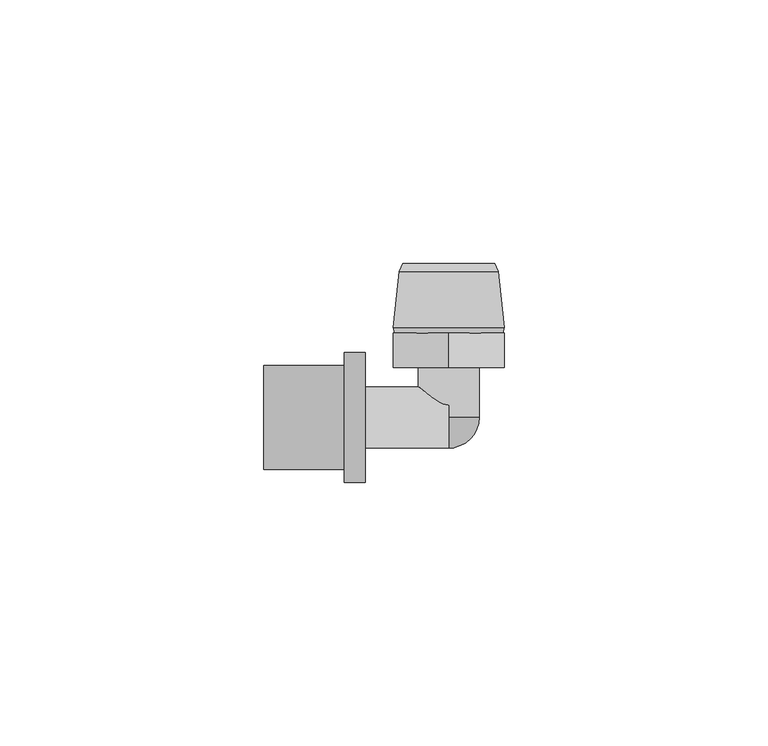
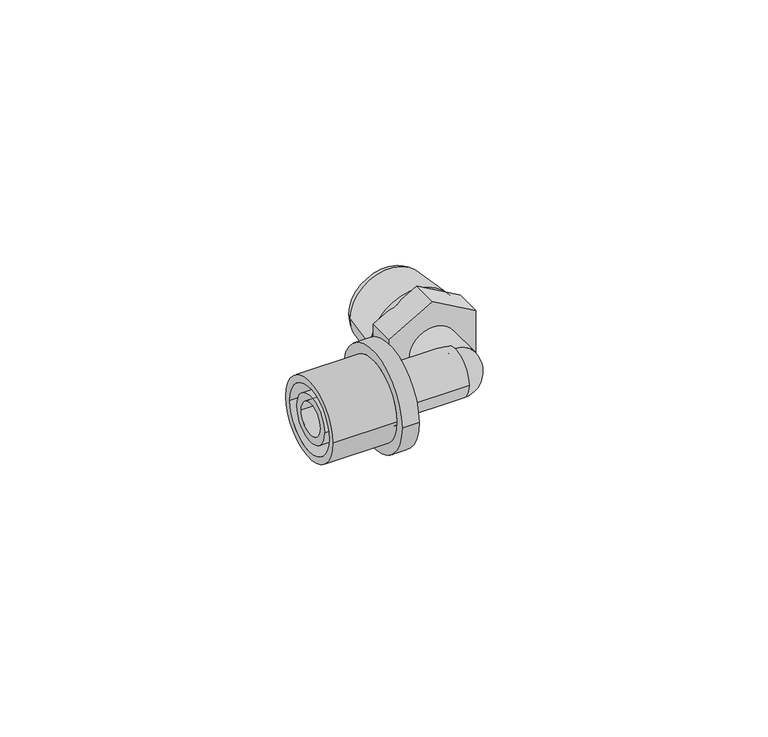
"""IFC4 building model written with IfcOpenShell, lengths in millimetres: pipe fitting geometry, FASTLOC_Elbow with male thread EX+ : FSL A internal AT."""

from ifc_helpers import new_model, si_unit, point, frame, origin, origin_2d, place, context, project, spatial, polyline, circle_curve, ellipse_curve, trimmed, segment, composite_curve, outline, extrude, source, transform, mapped, element, save
from ifc_brep_helpers import plane_surface, cylinder_surface, revolved_surface, advanced_brep


def pipe_fitting_1a29b1f6(model_context):
    return source(origin(), model_context, "Body", "SolidModel", [
        advanced_brep(
        [(-19.8, -12.35, 0.0), (-19.8, 12.35, 0.0), (-15.8, 12.35, 0.0), (-15.8, -12.35, 0.0), (-35.1, -9.85, 0.0), (-35.1, 9.85, 0.0), (-19.8, 9.85, 0.0), (-19.8, -9.85, 0.0), (-15.8, -8.15, 0.0), (-15.8, 8.15, 0.0), (-35.1, 8.15, 0.0), (-35.1, -8.15, 0.0)],
        [
            (0, 1, circle_curve(frame((-19.8, 0.0, 0.0), z_axis=(1.0, 0.0, 0.0), x_axis=(0.0, 1.0, 0.0)), 12.35)),
            (1, 2),
            (2, 3, circle_curve(frame((-15.8, 0.0, 0.0), z_axis=(-1.0, 0.0, 0.0), x_axis=(0.0, 1.0, 0.0)), 12.35)),
            (3, 0),
            (4, 5, circle_curve(frame((-35.1, 0.0, 0.0), z_axis=(1.0, 0.0, 0.0), x_axis=(0.0, 1.0, 0.0)), 9.85)),
            (5, 6),
            (6, 7, circle_curve(frame((-19.8, 0.0, 0.0), z_axis=(-1.0, 0.0, 0.0), x_axis=(0.0, 1.0, 0.0)), 9.85)),
            (7, 4),
            (8, 9, circle_curve(frame((-15.8, 0.0, 0.0), z_axis=(1.0, 0.0, 0.0), x_axis=(0.0, 1.0, 0.0)), 8.15)),
            (9, 10),
            (10, 11, circle_curve(frame((-35.1, 0.0, 0.0), z_axis=(-1.0, 0.0, 0.0), x_axis=(0.0, 1.0, 0.0)), 8.15)),
            (11, 8),
            (1, 0, circle_curve(frame((-19.8, 0.0, 0.0), z_axis=(1.0, 0.0, 0.0), x_axis=(0.0, -1.0, 0.0)), 12.35)),
            (3, 2, circle_curve(frame((-15.8, 0.0, 0.0), z_axis=(-1.0, 0.0, 0.0), x_axis=(0.0, -1.0, 0.0)), 12.35)),
            (6, 7, circle_curve(frame((-19.8, 0.0, 0.0), z_axis=(1.0, 0.0, 0.0), x_axis=(0.0, -1.0, 0.0)), 9.85)),
            (5, 4, circle_curve(frame((-35.1, 0.0, 0.0), z_axis=(1.0, 0.0, 0.0), x_axis=(0.0, -1.0, 0.0)), 9.85)),
            (10, 11, circle_curve(frame((-35.1, 0.0, 0.0), z_axis=(1.0, 0.0, 0.0), x_axis=(0.0, -1.0, 0.0)), 8.15)),
            (9, 8, circle_curve(frame((-15.8, 0.0, 0.0), z_axis=(1.0, 0.0, 0.0), x_axis=(0.0, -1.0, 0.0)), 8.15)),
        ],
        [
            cylinder_surface(frame((-15.8, 0.0, 0.0), z_axis=(-1.0, 0.0, 0.0), x_axis=(0.0, 1.0, 0.0)), 12.35),
            cylinder_surface(frame((-15.8, 0.0, 0.0), z_axis=(-1.0, 0.0, 0.0), x_axis=(0.0, 1.0, 0.0)), 9.85),
            revolved_surface(polyline([(-35.1, 8.15, 0.0), (-15.8, 8.15, 0.0)]), (-15.8, 0.0, 0.0), (-1.0, 0.0, 0.0)),
            cylinder_surface(frame((-15.8, 0.0, 0.0), z_axis=(-1.0, 0.0, 0.0), x_axis=(0.0, -1.0, 0.0)), 12.35),
            plane_surface(frame((-19.8, 0.0, 0.0), z_axis=(-1.0, 0.0, 0.0), x_axis=(0.0, -1.0, 0.0))),
            cylinder_surface(frame((-15.8, 0.0, 0.0), z_axis=(-1.0, 0.0, 0.0), x_axis=(0.0, -1.0, 0.0)), 9.85),
            plane_surface(frame((-35.1, 0.0, 0.0), z_axis=(-1.0, 0.0, 0.0), x_axis=(0.0, -1.0, 0.0))),
            revolved_surface(polyline([(-35.1, -8.15, 0.0), (-15.8, -8.15, 0.0)]), (-15.8, 0.0, 0.0), (-1.0, 0.0, 0.0)),
            plane_surface(frame((-15.8, 0.0, 0.0), z_axis=(1.0, 0.0, 0.0), x_axis=(0.0, -1.0, 0.0))),
        ],
        [
            (0, [[1, 2, 3, 4]]),
            (1, [[5, 6, 7, 8]]),
            (2, [[9, 10, 11, 12]]),
            (3, [[13, -4, 14, -2]]),
            (4, [[-13, -1], [15, -7]]),
            (5, [[16, -8, -15, -6]]),
            (6, [[-16, -5], [17, -11]]),
            (7, [[18, -12, -17, -10]]),
            (8, [[-14, -3], [-18, -9]]),
        ],
    ),
        advanced_brep(
        [(9.4, 27.7000007, 0.0), (-9.4, 27.7000007, 0.0), (-8.75, 29.2, 0.0), (8.75, 29.2, 0.0), (10.55, 17.0531902, 0.0), (-10.55, 17.0531902, 0.0), (10.2, 16.0, 0.0), (-10.2, 16.0, 0.0), (7.0, 17.4157803, 0.0), (-7.0, 17.4157803, 0.0), (-5.8967197, 16.0, 0.0), (5.8967197, 16.0, 0.0), (7.0, 29.2, 0.0), (-7.0, 29.2, 0.0)],
        [
            (0, 1, circle_curve(frame((0.0, 27.7000007, 0.0), z_axis=(0.0, 1.0, 0.0), x_axis=(-1.0, 0.0, 0.0)), 9.4)),
            (1, 2),
            (2, 3, circle_curve(frame((0.0, 29.2, 0.0), z_axis=(0.0, -1.0, 0.0), x_axis=(-1.0, 0.0, 0.0)), 8.75)),
            (3, 0),
            (4, 5, circle_curve(frame((0.0, 17.0531902, 0.0), z_axis=(0.0, 1.0, 0.0), x_axis=(-1.0, 0.0, 0.0)), 10.55)),
            (5, 1),
            (0, 4),
            (6, 7, circle_curve(frame((0.0, 16.0, 0.0), z_axis=(0.0, 1.0, 0.0), x_axis=(-1.0, 0.0, 0.0)), 10.2)),
            (7, 5),
            (4, 6),
            (8, 9, circle_curve(frame((0.0, 17.4157803, 0.0), z_axis=(0.0, 1.0, 0.0), x_axis=(-1.0, 0.0, 0.0)), 7.0)),
            (9, 10),
            (10, 11, circle_curve(frame((0.0, 16.0, 0.0), z_axis=(0.0, -1.0, 0.0), x_axis=(-1.0, 0.0, 0.0)), 5.8967197)),
            (11, 8),
            (12, 13, circle_curve(frame((0.0, 29.2, 0.0), z_axis=(0.0, 1.0, 0.0), x_axis=(-1.0, 0.0, 0.0)), 7.0)),
            (13, 9),
            (8, 12),
            (2, 3, circle_curve(frame((0.0, 29.2, 0.0), z_axis=(0.0, 1.0, 0.0), x_axis=(1.0, 0.0, 0.0)), 8.75)),
            (12, 13, circle_curve(frame((0.0, 29.2, 0.0), z_axis=(0.0, -1.0, 0.0), x_axis=(1.0, 0.0, 0.0)), 7.0)),
            (1, 0, circle_curve(frame((0.0, 27.7000007, 0.0), z_axis=(0.0, 1.0, 0.0), x_axis=(1.0, 0.0, 0.0)), 9.4)),
            (5, 4, circle_curve(frame((0.0, 17.0531902, 0.0), z_axis=(0.0, 1.0, 0.0), x_axis=(1.0, 0.0, 0.0)), 10.55)),
            (7, 6, circle_curve(frame((0.0, 16.0, 0.0), z_axis=(0.0, 1.0, 0.0), x_axis=(1.0, 0.0, 0.0)), 10.2)),
            (10, 11, circle_curve(frame((0.0, 16.0, 0.0), z_axis=(0.0, 1.0, 0.0), x_axis=(1.0, 0.0, 0.0)), 5.8967197)),
            (9, 8, circle_curve(frame((0.0, 17.4157803, 0.0), z_axis=(0.0, 1.0, 0.0), x_axis=(1.0, 0.0, 0.0)), 7.0)),
        ],
        [
            revolved_surface(polyline([(-8.75, 29.2, 0.0), (-9.4, 27.7000007, 0.0)]), (0.0, 9.5, 0.0), (0.0, -1.0, 0.0)),
            revolved_surface(polyline([(-9.4, 27.7000007, 0.0), (-10.55, 17.0531902, 0.0)]), (0.0, 9.5, 0.0), (0.0, -1.0, 0.0)),
            revolved_surface(polyline([(-10.55, 17.0531902, 0.0), (-10.2, 16.0, 0.0)]), (0.0, 9.5, 0.0), (0.0, -1.0, 0.0)),
            revolved_surface(polyline([(-5.8967197, 16.0, 0.0), (-7.0, 17.4157803, 0.0)]), (0.0, 9.5, 0.0), (0.0, -1.0, 0.0)),
            revolved_surface(polyline([(-7.0, 17.4157803, 0.0), (-7.0, 29.2, 0.0)]), (0.0, 9.5, 0.0), (0.0, -1.0, 0.0)),
            plane_surface(frame((0.0, 29.2, 0.0), z_axis=(0.0, 1.0, 0.0), x_axis=(1.0, 0.0, 0.0))),
            revolved_surface(polyline([(8.75, 29.2, 0.0), (9.4, 27.7000007, 0.0)]), (0.0, 9.5, 0.0), (0.0, -1.0, 0.0)),
            revolved_surface(polyline([(9.4, 27.7000007, 0.0), (10.55, 17.0531902, 0.0)]), (0.0, 9.5, 0.0), (0.0, -1.0, 0.0)),
            revolved_surface(polyline([(10.55, 17.0531902, 0.0), (10.2, 16.0, 0.0)]), (0.0, 9.5, 0.0), (0.0, -1.0, 0.0)),
            plane_surface(frame((0.0, 16.0, 0.0), z_axis=(0.0, -1.0, 0.0), x_axis=(1.0, 0.0, 0.0))),
            revolved_surface(polyline([(5.8967197, 16.0, 0.0), (7.0, 17.4157803, 0.0)]), (0.0, 9.5, 0.0), (0.0, -1.0, 0.0)),
            revolved_surface(polyline([(7.0, 17.4157803, 0.0), (7.0, 29.2, 0.0)]), (0.0, 9.5, 0.0), (0.0, -1.0, 0.0)),
        ],
        [
            (0, [[1, 2, 3, 4]]),
            (1, [[5, 6, -1, 7]]),
            (2, [[8, 9, -5, 10]]),
            (3, [[11, 12, 13, 14]]),
            (4, [[15, 16, -11, 17]]),
            (5, [[18, -3], [19, -15]]),
            (6, [[20, -4, -18, -2]]),
            (7, [[21, -7, -20, -6]]),
            (8, [[22, -10, -21, -9]]),
            (9, [[-22, -8], [23, -13]]),
            (10, [[24, -14, -23, -12]]),
            (11, [[-19, -17, -24, -16]]),
        ],
    ),
        advanced_brep(
        [(-19.8, 5.8, 0.0), (-19.8, -5.8, 0.0), (-34.8, -5.8, 0.0), (-34.8, 5.8, 0.0), (-17.1, 6.9, 0.0), (-17.1, -6.9, 0.0), (-19.8, -6.9, 0.0), (-19.8, 6.9, 0.0), (0.0, 5.8, 0.0), (0.0, -5.8, 0.0), (-17.1, -5.8, 0.0), (-17.1, 5.8, 0.0), (-34.8, 3.95, 0.0), (-34.8, -3.95, 0.0), (0.0, -3.95, 0.0), (0.0, 3.95, 0.0)],
        [
            (0, 1, circle_curve(frame((-19.8, 0.0, 0.0), z_axis=(-1.0, 0.0, 0.0), x_axis=(0.0, -1.0, 0.0)), 5.8)),
            (1, 2),
            (2, 3, circle_curve(frame((-34.8, 0.0, 0.0), z_axis=(1.0, 0.0, 0.0), x_axis=(0.0, -1.0, 0.0)), 5.8)),
            (3, 0),
            (4, 5, circle_curve(frame((-17.1, 0.0, 0.0), z_axis=(-1.0, 0.0, 0.0), x_axis=(0.0, -1.0, 0.0)), 6.9)),
            (5, 6),
            (6, 7, circle_curve(frame((-19.8, 0.0, 0.0), z_axis=(1.0, 0.0, 0.0), x_axis=(0.0, -1.0, 0.0)), 6.9)),
            (7, 4),
            (8, 9, circle_curve(frame((0.0, 0.0, 0.0), z_axis=(-1.0, 0.0, 0.0), x_axis=(0.0, -1.0, 0.0)), 5.8)),
            (9, 10),
            (10, 11, circle_curve(frame((-17.1, 0.0, 0.0), z_axis=(1.0, 0.0, 0.0), x_axis=(0.0, -1.0, 0.0)), 5.8)),
            (11, 8),
            (12, 13, circle_curve(frame((-34.8, 0.0, 0.0), z_axis=(-1.0, 0.0, 0.0), x_axis=(0.0, -1.0, 0.0)), 3.95)),
            (13, 14),
            (14, 15, circle_curve(frame((0.0, 0.0, 0.0), z_axis=(1.0, 0.0, 0.0), x_axis=(0.0, -1.0, 0.0)), 3.95)),
            (15, 12),
            (2, 3, circle_curve(frame((-34.8, 0.0, 0.0), z_axis=(-1.0, 0.0, 0.0), x_axis=(0.0, 1.0, 0.0)), 5.8)),
            (12, 13, circle_curve(frame((-34.8, 0.0, 0.0), z_axis=(1.0, 0.0, 0.0), x_axis=(0.0, 1.0, 0.0)), 3.95)),
            (1, 0, circle_curve(frame((-19.8, 0.0, 0.0), z_axis=(-1.0, 0.0, 0.0), x_axis=(0.0, 1.0, 0.0)), 5.8)),
            (6, 7, circle_curve(frame((-19.8, 0.0, 0.0), z_axis=(-1.0, 0.0, 0.0), x_axis=(0.0, 1.0, 0.0)), 6.9)),
            (5, 4, circle_curve(frame((-17.1, 0.0, 0.0), z_axis=(-1.0, 0.0, 0.0), x_axis=(0.0, 1.0, 0.0)), 6.9)),
            (10, 11, circle_curve(frame((-17.1, 0.0, 0.0), z_axis=(-1.0, 0.0, 0.0), x_axis=(0.0, 1.0, 0.0)), 5.8)),
            (9, 8, circle_curve(frame((0.0, 0.0, 0.0), z_axis=(-1.0, 0.0, 0.0), x_axis=(0.0, 1.0, 0.0)), 5.8)),
            (14, 15, circle_curve(frame((0.0, 0.0, 0.0), z_axis=(-1.0, 0.0, 0.0), x_axis=(0.0, 1.0, 0.0)), 3.95)),
        ],
        [
            cylinder_surface(frame((0.0, 0.0, 0.0), z_axis=(1.0, 0.0, 0.0), x_axis=(0.0, -1.0, 0.0)), 5.8),
            cylinder_surface(frame((0.0, 0.0, 0.0), z_axis=(1.0, 0.0, 0.0), x_axis=(0.0, -1.0, 0.0)), 6.9),
            revolved_surface(polyline([(0.0, -3.95, 0.0), (-34.8, -3.95, 0.0)]), (0.0, 0.0, 0.0), (1.0, 0.0, 0.0)),
            plane_surface(frame((-34.8, 0.0, 0.0), z_axis=(-1.0, 0.0, 0.0), x_axis=(0.0, 1.0, 0.0))),
            cylinder_surface(frame((0.0, 0.0, 0.0), z_axis=(1.0, 0.0, 0.0), x_axis=(0.0, 1.0, 0.0)), 5.8),
            plane_surface(frame((-19.8, 0.0, 0.0), z_axis=(-1.0, 0.0, 0.0), x_axis=(0.0, 1.0, 0.0))),
            cylinder_surface(frame((0.0, 0.0, 0.0), z_axis=(1.0, 0.0, 0.0), x_axis=(0.0, 1.0, 0.0)), 6.9),
            plane_surface(frame((-17.1, 0.0, 0.0), z_axis=(1.0, 0.0, 0.0), x_axis=(0.0, 1.0, 0.0))),
            plane_surface(frame((0.0, 0.0, 0.0), z_axis=(1.0, 0.0, 0.0), x_axis=(0.0, 1.0, 0.0))),
            revolved_surface(polyline([(0.0, 3.95, 0.0), (-34.8, 3.95, 0.0)]), (0.0, 0.0, 0.0), (1.0, 0.0, 0.0)),
        ],
        [
            (0, [[1, 2, 3, 4]]),
            (1, [[5, 6, 7, 8]]),
            (0, [[9, 10, 11, 12]]),
            (2, [[13, 14, 15, 16]]),
            (3, [[17, -3], [18, -13]]),
            (4, [[19, -4, -17, -2]]),
            (5, [[20, -7], [-19, -1]]),
            (6, [[21, -8, -20, -6]]),
            (7, [[-21, -5], [22, -11]]),
            (4, [[23, -12, -22, -10]]),
            (8, [[-23, -9], [24, -15]]),
            (9, [[-18, -16, -24, -14]]),
        ],
    ),
        advanced_brep(
        [(0.0, -5.8, 0.0), (0.0, 0.0, 5.8), (0.0, 0.0, 3.95), (0.0, -3.95, 0.0), (0.0, 0.0, -3.95), (0.0, 0.0, -5.8)],
        [
            (0, 1, circle_curve(frame((0.0, 0.0, 0.0), z_axis=(-1.0, 0.0, 0.0), x_axis=(0.0, 0.0, 1.0)), 5.8)),
            (1, 2),
            (2, 3, circle_curve(frame((0.0, 0.0, 0.0), z_axis=(1.0, 0.0, 0.0), x_axis=(0.0, 0.0, 1.0)), 3.95)),
            (3, 0),
            (3, 4, circle_curve(frame((0.0, 0.0, 0.0), z_axis=(1.0, 0.0, 0.0), x_axis=(0.0, 0.0, -1.0)), 3.95)),
            (4, 5),
            (5, 0, circle_curve(frame((0.0, 0.0, 0.0), z_axis=(-1.0, 0.0, 0.0), x_axis=(0.0, 0.0, -1.0)), 5.8)),
            (5, 1, circle_curve(frame((0.0, 0.0, 0.0), z_axis=(0.0, -1.0, 0.0), x_axis=(0.0, 0.0, 1.0)), 5.8)),
            (4, 2, circle_curve(frame((0.0, 0.0, 0.0), z_axis=(0.0, -1.0, 0.0), x_axis=(0.0, 0.0, 1.0)), 3.95)),
        ],
        [
            plane_surface(frame((0.0, 0.0, 0.0), z_axis=(-1.0, 0.0, 0.0), x_axis=(0.0, 0.0, 1.0))),
            plane_surface(frame((0.0, 0.0, 0.0), z_axis=(-1.0, 0.0, 0.0), x_axis=(0.0, 0.0, -1.0))),
            revolved_surface(trimmed(ellipse_curve(frame((0.0, 0.0, 0.0), z_axis=(-1.0, 0.0, 0.0), x_axis=(0.0, 0.0, 1.0)), 5.8, 5.8), [point((0.0, -5.8, 0.0))], [point((0.0, 0.0, 5.8))], True, "CARTESIAN"), (0.0, 0.0, 0.0), (0.0, 1.0, 0.0)),
            plane_surface(frame((0.0, 0.0, 0.0), z_axis=(0.0, 1.0, 0.0), x_axis=(0.0, 0.0, 1.0))),
            revolved_surface(trimmed(ellipse_curve(frame((0.0, 0.0, 0.0), z_axis=(1.0, 0.0, 0.0), x_axis=(0.0, 0.0, 1.0)), 3.95, 3.95), [point((0.0, 0.0, 3.95))], [point((0.0, -3.95, 0.0))], True, "CARTESIAN"), (0.0, 0.0, 0.0), (0.0, 1.0, 0.0)),
        ],
        [
            (0, [[1, 2, 3, 4]]),
            (1, [[5, 6, 7, -4]]),
            (2, [[8, -1, -7]]),
            (3, [[9, -2, -8, -6]]),
            (4, [[-3, -9, -5]]),
        ],
    ),
        extrude(outline(polyline([(-6.0621778, 10.5), (6.0621778, 10.5), (12.1243557, 0.0), (6.0621778, -10.5), (-6.0621778, -10.5), (-12.1243557, 0.0), (-6.0621778, 10.5)])), frame((0.0, 9.5, 0.0), z_axis=(0.0, 1.0, 0.0), x_axis=(0.0, 0.0, 1.0)), (0.0, 0.0, 1.0), 6.5),
        extrude(outline(composite_curve([segment(trimmed(circle_curve(origin_2d(), 5.8), [point((0.0, -5.8))], [point((0.0, 5.8))], False, "CARTESIAN"), True, "CONTINUOUS"), segment(trimmed(circle_curve(origin_2d(), 5.8), [point((0.0, 5.8))], [point((0.0, -5.8))], False, "CARTESIAN"), True, "CONTINUOUS")], self_intersect=False), holes=[composite_curve([segment(trimmed(circle_curve(origin_2d(), 3.95), [point((0.0, -3.95))], [point((0.0, 3.95))], True, "CARTESIAN"), True, "CONTINUOUS"), segment(trimmed(circle_curve(origin_2d(), 3.95), [point((0.0, 3.95))], [point((0.0, -3.95))], True, "CARTESIAN"), True, "CONTINUOUS")], self_intersect=False)]), frame((0.0, 0.0, 0.0), z_axis=(0.0, 1.0, 0.0), x_axis=(0.0, 0.0, 1.0)), (0.0, 0.0, 1.0), 9.5),
    ])


if __name__ == "__main__":
    model = new_model("IFC4")
    model_context = context("Model", 3, world=origin())
    ifc_project = project(units=[si_unit("LENGTHUNIT", "METRE", prefix="MILLI")], contexts=[model_context])
    site = spatial("IfcSite", under=ifc_project)
    building = spatial("IfcBuilding", under=site)
    placement = place(None, origin())
    pipe_fitting_shape = pipe_fitting_1a29b1f6(model_context)
    element("IfcPipeFitting", 1, ObjectType="FASTLOC_Elbow with male thread EX+ : FSL A internal AT", at=placement, inside=building, context=model_context, shape_type="MappedRepresentation", body=[
        mapped(pipe_fitting_shape, transform((0.0, 0.0, 0.0), x_axis=(1.0, 0.0, 0.0), y_axis=(0.0, 1.0, 0.0), z_axis=(0.0, 0.0, 1.0))),
    ])
    save(model, "model.ifc")
